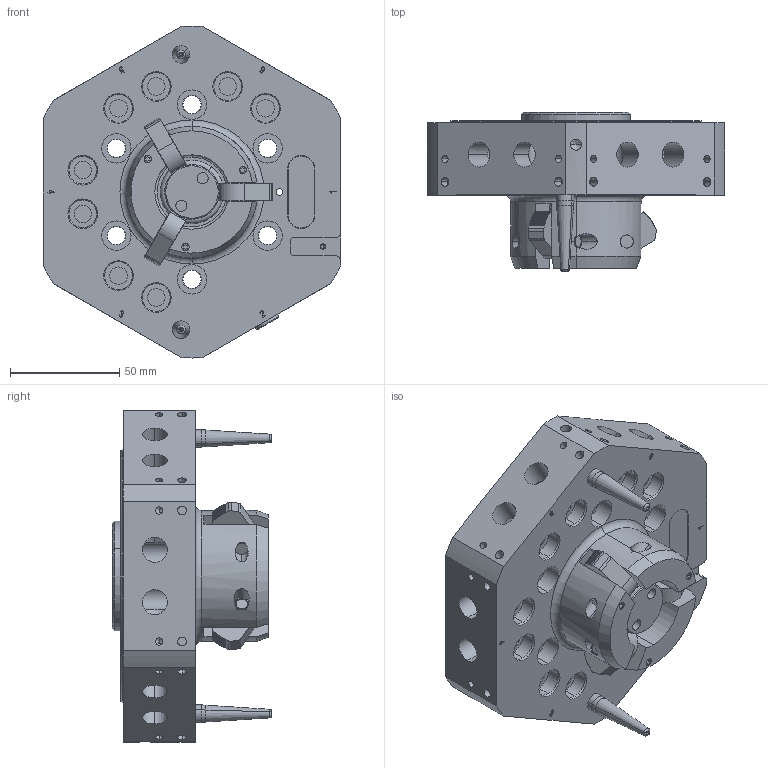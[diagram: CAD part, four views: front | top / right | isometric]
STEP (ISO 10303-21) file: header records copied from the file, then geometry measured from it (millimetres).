
FILE_DESCRIPTION (( 'STEP AP214' ), '1' );
FILE_NAME ('1800886A REV00.STEP', '2019-07-15T18:03:26', ( '' ), ( '' ), 'SwSTEP 2.0', 'SolidWorks 2019', '' );
FILE_SCHEMA (( 'AUTOMOTIVE_DESIGN' ));
Length unit declared in the file: millimetre
Products named in the file (29): 1507-P01N; 48427; 48030; 1506-C48N; 95505-P1087; 1502-C61N; 97501-P1084; 1506-D46N; 1506-D56A; 97500-B1028; 1506-C58N; 1506-C57N; 1506-C53N; 1506-C47N; 1800886A REV00; 48425; 48008; 87525-P1007; 48414; 1601-D25A; 96510-B1092; 89503-P1052; 87515-P2047; 0601-P58N; 1600-P57N; 1507-P19N; 49628_90967A120; 48012; 91502-P1060
Assembly tree (71 placements, depth 3):
  1800886A REV00
    1601-D25A
      1506-D46N
      1506-C47N
      1506-C48N
      1506-C53N
      1502-C61N  x3
      97500-B1028  x3
      96510-B1092  x2
      48427  x5
      48425  x3
      89503-P1052  x9
      48030  x2
      1507-P19N
      48012  x6
      0601-P58N
      91502-P1060
      49628_90967A120
      87525-P1007
    1506-D56A
      1506-C57N
      1506-C58N
      1507-P01N  x2
      48414  x2
      48012  x4
      48008  x2
      87515-P2047  x6
      95505-P1087  x6
      97501-P1084  x2
    1600-P57N
Bounding box: 136 x 73.02 x 152 mm (x, y, z)
Volume: 510836.2 mm3; surface area: 158350.2 mm2
Topology: 69 solids, 69 shells, 2248 faces, 5329 edges, 3356 vertices
Faces by surface type: plane 887, cylinder 734, cone 291, bspline 199, torus 137
Entity records: 63344 total; most frequent: CARTESIAN_POINT 24536, ORIENTED_EDGE 7542, DIRECTION 7404, EDGE_CURVE 3771, AXIS2_PLACEMENT_3D 2737, VERTEX_POINT 2429, VECTOR 1930, LINE 1930
